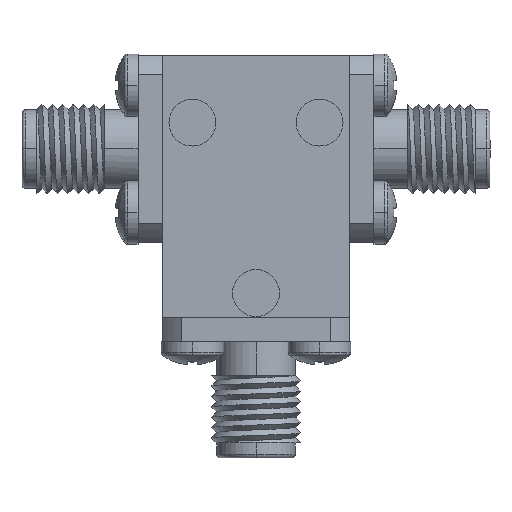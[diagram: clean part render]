
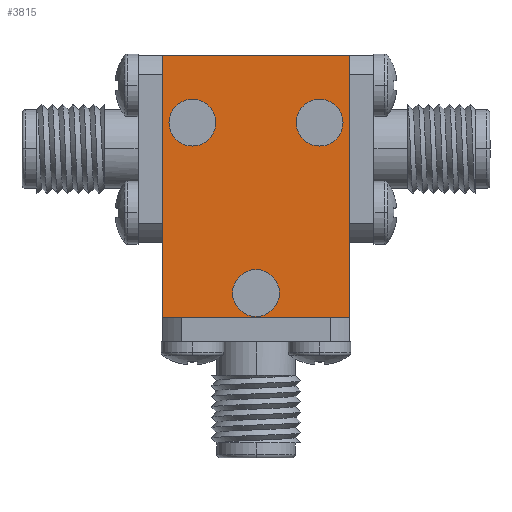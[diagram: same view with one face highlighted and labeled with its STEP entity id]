
A CAD part, top view. The second image highlights one B-rep face of the part: STEP entity #3815.
In plain terms, the highlighted planar face has unit normal (0, 0, 1) as drawn and (0, 0, -1) by its records, which use the part's own axes.
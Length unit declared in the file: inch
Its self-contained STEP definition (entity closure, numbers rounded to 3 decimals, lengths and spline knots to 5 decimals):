
#27 = CARTESIAN_POINT ( 'NONE',  ( 0.17, 0.17, -0.25 ) ) ;
#56 = FACE_OUTER_BOUND ( 'NONE', #1942, .T. ) ;
#110 = DIRECTION ( 'NONE',  ( 0., -1., 0. ) ) ;
#114 = CARTESIAN_POINT ( 'NONE',  ( -0.25, -0.35, -0.25 ) ) ;
#190 = DIRECTION ( 'NONE',  ( 0., 0., 1. ) ) ;
#206 = CARTESIAN_POINT ( 'NONE',  ( -0.17, 0.17, -0.25 ) ) ;
#255 = VERTEX_POINT ( 'NONE', #4073 ) ;
#281 = CARTESIAN_POINT ( 'NONE',  ( 0.2325, 0.17, -0.25 ) ) ;
#366 = VERTEX_POINT ( 'NONE', #2693 ) ;
#377 = CARTESIAN_POINT ( 'NONE',  ( -0.1075, 0.17, -0.25 ) ) ;
#380 = DIRECTION ( 'NONE',  ( 1., 0., 0. ) ) ;
#382 = CIRCLE ( 'NONE', #2354, 0.0625 ) ;
#413 = VERTEX_POINT ( 'NONE', #1728 ) ;
#416 = ORIENTED_EDGE ( 'NONE', *, *, #2165, .T. ) ;
#528 = EDGE_LOOP ( 'NONE', ( #2423, #2589 ) ) ;
#556 = VERTEX_POINT ( 'NONE', #3282 ) ;
#596 = EDGE_CURVE ( 'NONE', #3090, #3008, #2421, .T. ) ;
#619 = AXIS2_PLACEMENT_3D ( 'NONE', #27, #1984, #1291 ) ;
#621 = EDGE_CURVE ( 'NONE', #3154, #413, #852, .T. ) ;
#630 = ORIENTED_EDGE ( 'NONE', *, *, #2890, .T. ) ;
#668 = DIRECTION ( 'NONE',  ( 1., 0., 0. ) ) ;
#719 = DIRECTION ( 'NONE',  ( 1., 0., 0. ) ) ;
#754 = CARTESIAN_POINT ( 'NONE',  ( -0.17, 0.17, -0.25 ) ) ;
#790 = DIRECTION ( 'NONE',  ( -1., 0., 0. ) ) ;
#838 = LINE ( 'NONE', #114, #3238 ) ;
#852 = LINE ( 'NONE', #1157, #2511 ) ;
#873 = DIRECTION ( 'NONE',  ( 0., 0., 1. ) ) ;
#876 = ORIENTED_EDGE ( 'NONE', *, *, #2966, .F. ) ;
#980 = CARTESIAN_POINT ( 'NONE',  ( 0.17, 0.17, -0.25 ) ) ;
#994 = DIRECTION ( 'NONE',  ( 0., 0., 1. ) ) ;
#1001 = VERTEX_POINT ( 'NONE', #377 ) ;
#1030 = DIRECTION ( 'NONE',  ( 0., 0., 1. ) ) ;
#1060 = ORIENTED_EDGE ( 'NONE', *, *, #621, .F. ) ;
#1130 = EDGE_CURVE ( 'NONE', #255, #366, #3061, .T. ) ;
#1157 = CARTESIAN_POINT ( 'NONE',  ( 0.25, 0.35, -0.25 ) ) ;
#1163 = CARTESIAN_POINT ( 'NONE',  ( 0.0625, -0.285, -0.25 ) ) ;
#1189 = LINE ( 'NONE', #2046, #3429 ) ;
#1201 = CARTESIAN_POINT ( 'NONE',  ( 0.25, -0.35, -0.25 ) ) ;
#1207 = VERTEX_POINT ( 'NONE', #281 ) ;
#1246 = CIRCLE ( 'NONE', #619, 0.0625 ) ;
#1271 = AXIS2_PLACEMENT_3D ( 'NONE', #980, #994, #668 ) ;
#1291 = DIRECTION ( 'NONE',  ( 1., 0., 0. ) ) ;
#1301 = VECTOR ( 'NONE', #110, 39.37008 ) ;
#1313 = EDGE_LOOP ( 'NONE', ( #3915, #1822 ) ) ;
#1320 = AXIS2_PLACEMENT_3D ( 'NONE', #3711, #2748, #1797 ) ;
#1380 = FACE_BOUND ( 'NONE', #1313, .T. ) ;
#1384 = EDGE_CURVE ( 'NONE', #3008, #3090, #3152, .T. ) ;
#1391 = DIRECTION ( 'NONE',  ( 0., 0., 1. ) ) ;
#1399 = CIRCLE ( 'NONE', #2729, 0.0625 ) ;
#1410 = ORIENTED_EDGE ( 'NONE', *, *, #3742, .F. ) ;
#1458 = DIRECTION ( 'NONE',  ( 1., 0., 0. ) ) ;
#1515 = DIRECTION ( 'NONE',  ( 1., 0., 0. ) ) ;
#1535 = VERTEX_POINT ( 'NONE', #3955 ) ;
#1728 = CARTESIAN_POINT ( 'NONE',  ( 0.25, 0.35, -0.25 ) ) ;
#1797 = DIRECTION ( 'NONE',  ( 1., 0., 0. ) ) ;
#1822 = ORIENTED_EDGE ( 'NONE', *, *, #2666, .T. ) ;
#1852 = CARTESIAN_POINT ( 'NONE',  ( 0., 0., -0.25 ) ) ;
#1942 = EDGE_LOOP ( 'NONE', ( #1060, #876, #4152, #1410 ) ) ;
#1984 = DIRECTION ( 'NONE',  ( 0., 0., 1. ) ) ;
#2046 = CARTESIAN_POINT ( 'NONE',  ( -0.25, 0.35, -0.25 ) ) ;
#2079 = DIRECTION ( 'NONE',  ( 0., 1., 0. ) ) ;
#2165 = EDGE_CURVE ( 'NONE', #1001, #1535, #1399, .T. ) ;
#2186 = AXIS2_PLACEMENT_3D ( 'NONE', #3230, #1030, #719 ) ;
#2354 = AXIS2_PLACEMENT_3D ( 'NONE', #754, #1391, #3656 ) ;
#2421 = CIRCLE ( 'NONE', #1320, 0.0625 ) ;
#2423 = ORIENTED_EDGE ( 'NONE', *, *, #1384, .T. ) ;
#2511 = VECTOR ( 'NONE', #2079, 39.37008 ) ;
#2529 = FACE_BOUND ( 'NONE', #2921, .T. ) ;
#2589 = ORIENTED_EDGE ( 'NONE', *, *, #596, .T. ) ;
#2612 = AXIS2_PLACEMENT_3D ( 'NONE', #1852, #873, #1515 ) ;
#2666 = EDGE_CURVE ( 'NONE', #556, #1207, #1246, .T. ) ;
#2693 = CARTESIAN_POINT ( 'NONE',  ( -0.25, -0.35, -0.25 ) ) ;
#2726 = CARTESIAN_POINT ( 'NONE',  ( -0.25, 0.35, -0.25 ) ) ;
#2729 = AXIS2_PLACEMENT_3D ( 'NONE', #206, #190, #1458 ) ;
#2748 = DIRECTION ( 'NONE',  ( 0., 0., 1. ) ) ;
#2757 = EDGE_CURVE ( 'NONE', #1207, #556, #2955, .T. ) ;
#2832 = PLANE ( 'NONE',  #2612 ) ;
#2890 = EDGE_CURVE ( 'NONE', #1535, #1001, #382, .T. ) ;
#2921 = EDGE_LOOP ( 'NONE', ( #416, #630 ) ) ;
#2955 = CIRCLE ( 'NONE', #1271, 0.0625 ) ;
#2966 = EDGE_CURVE ( 'NONE', #366, #3154, #838, .T. ) ;
#3008 = VERTEX_POINT ( 'NONE', #1163 ) ;
#3061 = LINE ( 'NONE', #2726, #1301 ) ;
#3090 = VERTEX_POINT ( 'NONE', #3678 ) ;
#3152 = CIRCLE ( 'NONE', #2186, 0.0625 ) ;
#3154 = VERTEX_POINT ( 'NONE', #1201 ) ;
#3230 = CARTESIAN_POINT ( 'NONE',  ( 0., -0.285, -0.25 ) ) ;
#3238 = VECTOR ( 'NONE', #380, 39.37008 ) ;
#3282 = CARTESIAN_POINT ( 'NONE',  ( 0.1075, 0.17, -0.25 ) ) ;
#3388 = FACE_BOUND ( 'NONE', #528, .T. ) ;
#3429 = VECTOR ( 'NONE', #790, 39.37008 ) ;
#3656 = DIRECTION ( 'NONE',  ( 1., 0., 0. ) ) ;
#3678 = CARTESIAN_POINT ( 'NONE',  ( -0.0625, -0.285, -0.25 ) ) ;
#3711 = CARTESIAN_POINT ( 'NONE',  ( 0., -0.285, -0.25 ) ) ;
#3742 = EDGE_CURVE ( 'NONE', #413, #255, #1189, .T. ) ;
#3815 = ADVANCED_FACE ( 'NONE', ( #1380, #3388, #2529, #56 ), #2832, .F. ) ;
#3915 = ORIENTED_EDGE ( 'NONE', *, *, #2757, .T. ) ;
#3955 = CARTESIAN_POINT ( 'NONE',  ( -0.2325, 0.17, -0.25 ) ) ;
#4073 = CARTESIAN_POINT ( 'NONE',  ( -0.25, 0.35, -0.25 ) ) ;
#4152 = ORIENTED_EDGE ( 'NONE', *, *, #1130, .F. ) ;
